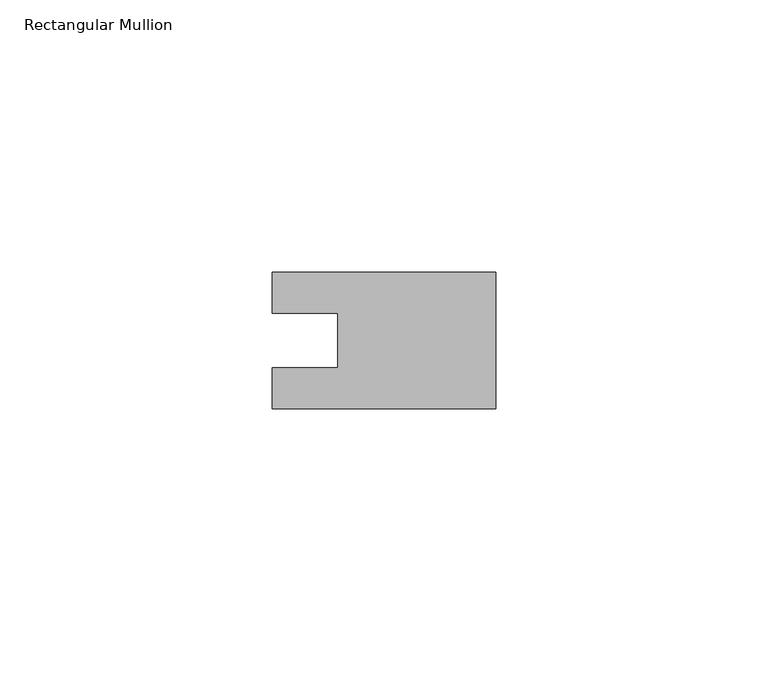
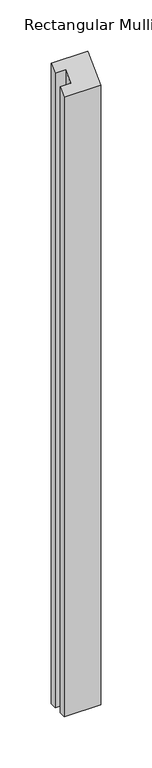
"""IFC4 building model written with IfcOpenShell, lengths in millimetres: member geometry, Rectangular Mullion : 22_IM_CF_DET1_boven_40mm."""

from ifc_helpers import new_model, si_unit, origin, place, context, project, spatial, faceted_brep, source, transform, mapped, element, save


def rectangular_mullion_edcf2523(model_context):
    return source(origin(), model_context, "Body", "Brep", [
        faceted_brep([(0.0, 12.5, -749.9999997), (0.0, -12.5, -749.9999997), (-41.0, -12.5, -749.9999997), (-41.0, -5.0, -749.9999997), (-29.0, -5.0, -749.9999997), (-29.0, 5.0, -749.9999997), (-41.0, 5.0, -749.9999997), (-41.0, 12.5, -749.9999997), (-41.0, 12.5, 12.5), (0.0, 12.5, 12.5), (-41.0, 5.0, 5.0), (-29.0, 5.0, 5.0), (-29.0, -5.0, -5.0), (-41.0, -5.0, -5.0), (-41.0, -12.5, -12.5), (0.0, -12.5, -12.5)], [[[0, 1, 2, 3, 4, 5, 6, 7]], [[8, 9, 0, 7]], [[10, 8, 7, 6]], [[11, 10, 6, 5]], [[12, 11, 5, 4]], [[13, 12, 4, 3]], [[14, 13, 3, 2]], [[15, 14, 2, 1]], [[9, 15, 1, 0]], [[9, 8, 10, 11, 12, 13, 14, 15]]]),
    ])


if __name__ == "__main__":
    model = new_model("IFC4")
    model_context = context("Model", 3, world=origin())
    ifc_project = project(units=[si_unit("LENGTHUNIT", "METRE", prefix="MILLI")], contexts=[model_context])
    site = spatial("IfcSite", under=ifc_project)
    building = spatial("IfcBuilding", under=site)
    placement = place(None, origin())
    rectangular_mullion_shape = rectangular_mullion_edcf2523(model_context)
    element("IfcMember", 1, ObjectType="Rectangular Mullion : 22_IM_CF_DET1_boven_40mm", at=placement, inside=building, context=model_context, shape_type="MappedRepresentation", body=[
        mapped(rectangular_mullion_shape, transform((0.0, 0.0, 0.0), x_axis=(1.0, 0.0, 0.0), y_axis=(0.0, 1.0, 0.0), z_axis=(0.0, 0.0, 1.0))),
    ])
    save(model, "model.ifc")
